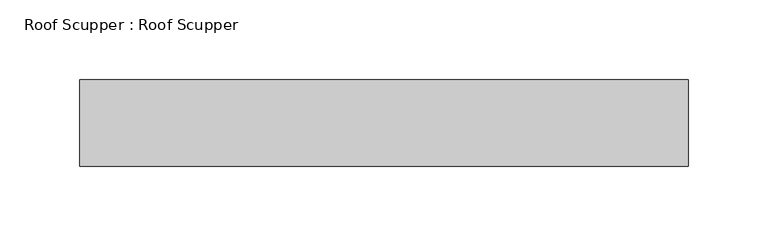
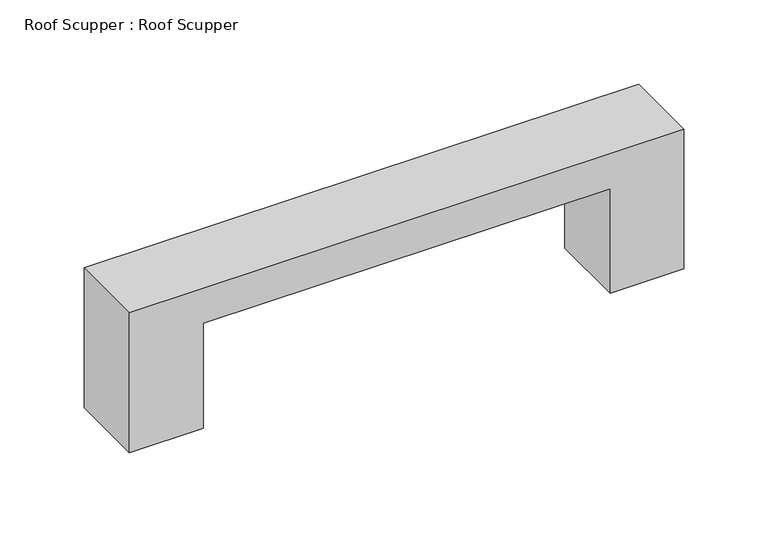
"""IFC4 building model written with IfcOpenShell, lengths in millimetres: proxy geometry, Roof Scupper : Roof Scupper."""

from ifc_helpers import new_model, si_unit, frame, origin, place, context, project, spatial, polyline, outline, extrude, source, transform, mapped, element, save


def roof_scupper_roof_scupper_2c9ae73a(model_context):
    return source(origin(), model_context, "Body", "SweptSolid", [
        extrude(outline(polyline([(0.0, 190.5), (101.6, 190.5), (101.6, -190.5), (0.0, -190.5), (0.0, -139.7), (76.2, -139.7), (76.2, 139.7), (0.0, 139.7), (0.0, 190.5)])), frame((0.0, 127.0, 0.0), z_axis=(0.0, 1.0, 0.0), x_axis=(0.0, 0.0, 1.0)), (0.0, 0.0, 1.0), 53.975),
    ])


if __name__ == "__main__":
    model = new_model("IFC4")
    model_context = context("Model", 3, world=origin())
    ifc_project = project(units=[si_unit("LENGTHUNIT", "METRE", prefix="MILLI")], contexts=[model_context])
    site = spatial("IfcSite", under=ifc_project)
    building = spatial("IfcBuilding", under=site)
    placement = place(None, origin())
    roof_scupper_roof_scupper_shape = roof_scupper_roof_scupper_2c9ae73a(model_context)
    element("IfcBuildingElementProxy", 1, Name="Roof Scupper : Roof Scupper", ObjectType="Roof Scupper : Roof Scupper", at=placement, inside=building, context=model_context, shape_type="MappedRepresentation", body=[
        mapped(roof_scupper_roof_scupper_shape, transform((0.0, 0.0, 0.0), x_axis=(1.0, 0.0, 0.0), y_axis=(0.0, 1.0, 0.0), z_axis=(0.0, 0.0, 1.0))),
    ])
    save(model, "model.ifc")
